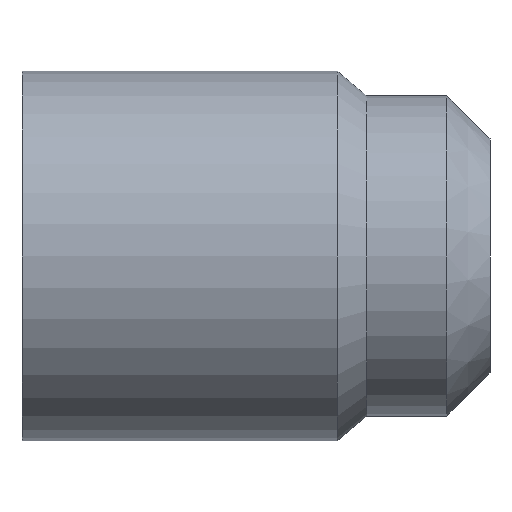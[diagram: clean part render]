
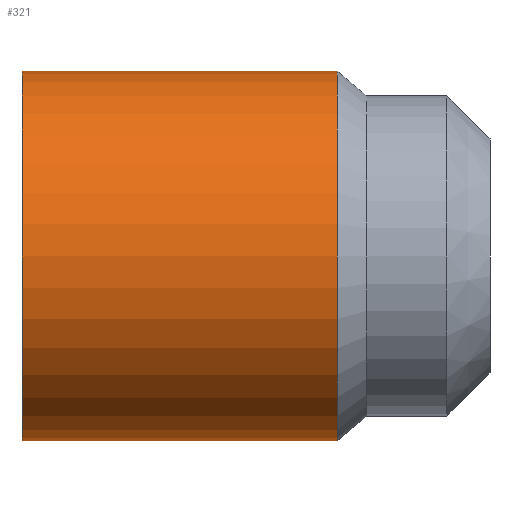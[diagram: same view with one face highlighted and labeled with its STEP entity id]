
A CAD part, front view. The second image highlights one B-rep face of the part: STEP entity #321.
In plain terms, the highlighted cylindrical face has radius 15 mm (diameter 30 mm), a full revolution.
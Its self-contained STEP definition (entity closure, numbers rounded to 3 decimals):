
#52=CARTESIAN_POINT('',(55.5,-0.,31.52));
#53=VERTEX_POINT('',#52);
#54=CARTESIAN_POINT('',(55.5,0.,46.52));
#55=DIRECTION('',(1.,0.,0.));
#56=DIRECTION('',(0.,0.,-1.));
#57=AXIS2_PLACEMENT_3D('',#54,#55,#56);
#58=CIRCLE('',#57,15.);
#59=EDGE_CURVE('',#53,#53,#58,.T.);
#274=CARTESIAN_POINT('',(81.116,0.,61.52));
#275=VERTEX_POINT('',#274);
#285=CARTESIAN_POINT('',(81.116,-0.,31.52));
#286=VERTEX_POINT('',#285);
#287=CARTESIAN_POINT('',(81.116,0.,46.52));
#288=DIRECTION('',(1.,0.,0.));
#289=DIRECTION('',(0.,0.,-1.));
#290=AXIS2_PLACEMENT_3D('',#287,#288,#289);
#291=CIRCLE('',#290,15.);
#292=EDGE_CURVE('',#275,#286,#291,.T.);
#294=CARTESIAN_POINT('',(81.116,0.,46.52));
#295=DIRECTION('',(1.,0.,0.));
#296=DIRECTION('',(0.,0.,-1.));
#297=AXIS2_PLACEMENT_3D('',#294,#295,#296);
#298=CIRCLE('',#297,15.);
#299=EDGE_CURVE('',#286,#275,#298,.T.);
#304=CARTESIAN_POINT('',(93.5,0.,46.52));
#305=DIRECTION('',(1.,0.,0.));
#306=DIRECTION('',(0.,0.,-1.));
#307=AXIS2_PLACEMENT_3D('',#304,#305,#306);
#308=CYLINDRICAL_SURFACE('',#307,15.);
#309=CARTESIAN_POINT('',(81.116,0.,31.52));
#310=DIRECTION('',(-1.,-0.,0.));
#311=VECTOR('',#310,25.616);
#312=LINE('',#309,#311);
#313=EDGE_CURVE('',#286,#53,#312,.T.);
#314=ORIENTED_EDGE('',*,*,#313,.T.);
#315=ORIENTED_EDGE('',*,*,#59,.T.);
#316=ORIENTED_EDGE('',*,*,#313,.F.);
#317=ORIENTED_EDGE('',*,*,#292,.F.);
#318=ORIENTED_EDGE('',*,*,#299,.F.);
#319=EDGE_LOOP('',(#314,#315,#316,#317,#318));
#320=FACE_BOUND('',#319,.T.);
#321=ADVANCED_FACE('',(#320),#308,.T.);
